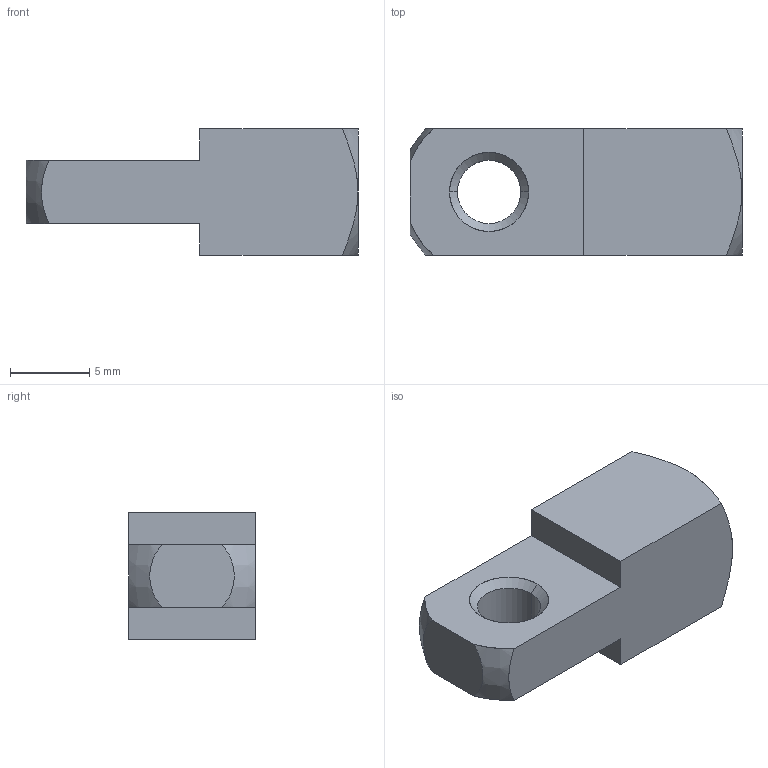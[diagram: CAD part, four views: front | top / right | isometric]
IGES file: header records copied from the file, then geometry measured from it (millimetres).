
Start section: SolidWorks IGES file using analytic representation for surfaces
Global section: file name: C:\Documents and Settings\IANO\My Documents\Wix and Auto CAD Work\CAD Models\Parametric Models\Wix Models\60000\65653_v2\65653_v2_IGES\65653.W1004.igs; native system: SolidWorks 2009; preprocessor: SolidWorks 2009; author: IANO; date: 140122.121607; units: millimetre
Bounding box: 21 x 8 x 8 mm (x, y, z)
Surface area: 804.6 mm2 (no closed solid volume)
Topology: 0 solids, 0 shells, 31 faces, 424 edges, 422 vertices
Faces by surface type: revolution 18, bspline 13
